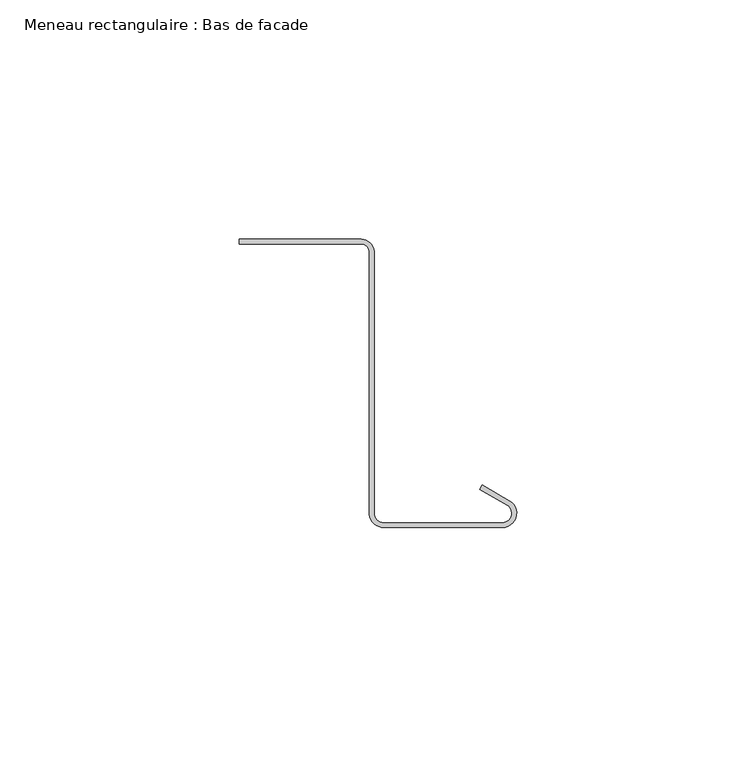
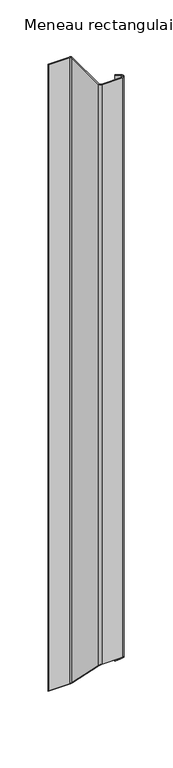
"""IFC4 building model written with IfcOpenShell, lengths in millimetres: member geometry, Meneau rectangulaire : Bas de facade."""

from ifc_helpers import new_model, si_unit, frame, origin, place, context, project, spatial, polyline, circle_curve, ellipse_curve, source, transform, mapped, element, save
from ifc_brep_helpers import plane_surface, cylinder_surface, revolved_surface, advanced_brep


def meneau_rectangulaire_bas_de_facade_2cf6ae8b(model_context):
    return source(origin(), model_context, "Body", "AdvancedBrep", [
        advanced_brep(
        [(-32.4584179, 2.9588923, 0.0), (-57.8548383, 2.9588923, 0.0), (-57.8548383, 1.9588923, 0.0), (-32.4584179, 1.9588923, 0.0), (-30.7239521, 0.4415475, 0.0), (-30.7239521, -54.522067, 0.0), (-27.735368, -57.2605998, 0.0), (-3.0, -57.2605998, 0.0), (-1.5, -51.6625235, 0.0), (-7.1638061, -48.3925235, 0.0), (-7.6638061, -49.258549, 0.0), (-2.0, -52.528549, 0.0), (-3.0, -56.2605998, 0.0), (-27.735368, -56.2605998, 0.0), (-29.7143802, -54.5495817, 0.0), (-29.7143802, 0.3898824, 0.0), (-32.4584179, 2.9588923, -795.627975), (-57.8548383, 2.9588923, -795.627975), (-57.8548383, 1.9588923, -794.627975), (-32.4584179, 1.9588923, -794.627975), (-30.7239521, 0.4415475, -793.1106302), (-30.7239521, -54.522067, -738.1470157), (-27.735368, -57.2605998, -735.408483), (-3.0, -57.2605998, -735.408483), (-1.5, -51.6625235, -741.0065592), (-7.1638061, -48.3925235, -744.2765592), (-7.6638061, -49.258549, -743.4105338), (-2.0, -52.528549, -740.1405338), (-3.0, -56.2605998, -736.408483), (-27.735368, -56.2605998, -736.408483), (-29.7143802, -54.5495817, -738.119501), (-29.7143802, 0.3898824, -793.0589651)],
        [
            (0, 1),
            (1, 2),
            (2, 3),
            (3, 4, circle_curve(frame((-32.4584179, 0.2088923, 0.0), z_axis=(0.0, 0.0, -1.0), x_axis=(0.0, 1.0, 0.0)), 1.75)),
            (4, 5),
            (5, 6, circle_curve(frame((-27.735368, -54.2605998, 0.0), z_axis=(0.0, 0.0, 1.0), x_axis=(-0.9961946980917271, -0.08715574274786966, 0.0)), 3.0)),
            (6, 7),
            (7, 8, circle_curve(frame((-3.0, -54.2605998, 0.0), z_axis=(0.0, 0.0, 1.0), x_axis=(0.0, -1.0, 0.0)), 3.0)),
            (8, 9),
            (9, 10),
            (10, 11),
            (11, 12, circle_curve(frame((-3.0, -54.2605998, 0.0), z_axis=(0.0, 0.0, -1.0), x_axis=(0.0, -1.0, 0.0)), 2.0)),
            (12, 13),
            (13, 14, circle_curve(frame((-27.735368, -54.2605998, 0.0), z_axis=(0.0, 0.0, -1.0), x_axis=(-0.9961946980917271, -0.08715574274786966, 0.0)), 2.0)),
            (14, 15),
            (15, 0, circle_curve(frame((-32.4584179, 0.2088923, 0.0), z_axis=(0.0, 0.0, 1.0), x_axis=(0.0, 1.0, 0.0)), 2.75)),
            (0, 16),
            (16, 17),
            (17, 1),
            (17, 18),
            (18, 2),
            (18, 19),
            (19, 3),
            (19, 20, ellipse_curve(frame((-32.4584179, 0.2088923, -792.877975), z_axis=(0.0, -0.707106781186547, -0.707106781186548), x_axis=(0.0, 0.707106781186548, -0.7071067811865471)), 2.4748737, 1.75)),
            (20, 4),
            (20, 21),
            (21, 5),
            (21, 22, ellipse_curve(frame((-27.735368, -54.2605998, -738.408483), z_axis=(0.0, 0.707106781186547, 0.707106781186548), x_axis=(0.0, -0.707106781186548, 0.7071067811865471)), 4.2426407, 3.0)),
            (22, 6),
            (22, 23),
            (23, 7),
            (23, 24, ellipse_curve(frame((-3.0, -54.2605998, -738.408483), z_axis=(0.0, 0.707106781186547, 0.707106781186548), x_axis=(0.0, -0.707106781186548, 0.7071067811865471)), 4.2426407, 3.0)),
            (24, 8),
            (24, 25),
            (25, 9),
            (25, 26),
            (26, 10),
            (26, 27),
            (27, 11),
            (27, 28, ellipse_curve(frame((-3.0, -54.2605998, -738.408483), z_axis=(0.0, -0.707106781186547, -0.707106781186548), x_axis=(0.0, 0.707106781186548, -0.7071067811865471)), 2.8284271, 2.0)),
            (28, 12),
            (28, 29),
            (29, 13),
            (29, 30, ellipse_curve(frame((-27.735368, -54.2605998, -738.408483), z_axis=(0.0, -0.707106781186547, -0.707106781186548), x_axis=(0.0, 0.707106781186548, -0.7071067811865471)), 2.8284271, 2.0)),
            (30, 14),
            (30, 31),
            (31, 15),
            (31, 16, ellipse_curve(frame((-32.4584179, 0.2088923, -792.877975), z_axis=(0.0, 0.707106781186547, 0.707106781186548), x_axis=(0.0, -0.707106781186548, 0.7071067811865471)), 3.8890873, 2.75)),
        ],
        [
            plane_surface(frame((0.0, -63.8351035, 0.0), z_axis=(0.0, 0.0, 1.0), x_axis=(-1.0, 0.0, 0.0))),
            plane_surface(frame((-32.4584179, 2.9588923, 0.0), z_axis=(0.0, 1.0, 0.0), x_axis=(0.0, 0.0, -1.0))),
            plane_surface(frame((-57.8548383, 2.9588923, 0.0), z_axis=(-1.0, 0.0, 0.0), x_axis=(0.0, 0.0, -1.0))),
            plane_surface(frame((-57.8548383, 1.9588923, 0.0), z_axis=(0.0, -1.0, 0.0), x_axis=(0.0, 0.0, -1.0))),
            revolved_surface(polyline([(-32.4584179, 1.9588923, -794.627975), (-32.4584179, 1.9588923, 0.0)]), (-32.4584179, 0.2088923, 0.0), (0.0, 0.0, -1.0)),
            plane_surface(frame((-30.7239521, 0.4415475, 0.0), z_axis=(-1.0, 0.0, 0.0), x_axis=(0.0, 0.0, -1.0))),
            cylinder_surface(frame((-27.735368, -54.2605998, 0.0), z_axis=(0.0, 0.0, 1.0000000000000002), x_axis=(-0.9961946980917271, -0.08715574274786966, 0.0)), 3.0),
            plane_surface(frame((-27.735368, -57.2605998, 0.0), z_axis=(0.0, -1.0, 0.0), x_axis=(0.0, 0.0, -1.0))),
            cylinder_surface(frame((-3.0, -54.2605998, 0.0), z_axis=(0.0, 0.0, 1.0), x_axis=(0.0, -1.0, 0.0)), 3.0),
            plane_surface(frame((-1.5, -51.6625235, 0.0), z_axis=(0.5000000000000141, 0.8660254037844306, 0.0), x_axis=(0.0, 0.0, -1.0))),
            plane_surface(frame((-7.1638061, -48.3925235, 0.0), z_axis=(-0.8660254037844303, 0.5000000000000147, 0.0), x_axis=(0.0, 0.0, -1.0))),
            plane_surface(frame((-7.6638061, -49.258549, 0.0), z_axis=(-0.500000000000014, -0.8660254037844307, 0.0), x_axis=(0.0, 0.0, -1.0))),
            revolved_surface(polyline([(-3.0, -56.2605998, -740.4084829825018), (-3.0, -56.2605998, 0.0)]), (-3.0, -54.2605998, 0.0), (0.0, 0.0, -1.0)),
            plane_surface(frame((-3.0, -56.2605998, 0.0), z_axis=(0.0, 1.0, 0.0), x_axis=(0.0, 0.0, -1.0))),
            revolved_surface(polyline([(-29.727757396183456, -54.434911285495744, -740.408482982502), (-29.727757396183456, -54.434911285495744, 0.0)]), (-27.735368, -54.2605998, 0.0), (0.0, 0.0, -1.0000000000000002)),
            plane_surface(frame((-29.7143802, -54.5495817, 0.0), z_axis=(1.0, 0.0, 0.0), x_axis=(0.0, 0.0, -1.0))),
            cylinder_surface(frame((-32.4584179, 0.2088923, 0.0), z_axis=(0.0, 0.0, 1.0), x_axis=(0.0, 1.0, 0.0)), 2.75),
            plane_surface(frame((304.8, 0.0, -792.6690827), z_axis=(0.0, -0.707106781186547, -0.707106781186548), x_axis=(0.0, -0.707106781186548, 0.707106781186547))),
        ],
        [
            (0, [[1, 2, 3, 4, 5, 6, 7, 8, 9, 10, 11, 12, 13, 14, 15, 16]]),
            (1, [[-1, 17, 18, 19]]),
            (2, [[-2, -19, 20, 21]]),
            (3, [[-3, -21, 22, 23]]),
            (4, [[-4, -23, 24, 25]]),
            (5, [[-5, -25, 26, 27]]),
            (6, [[-6, -27, 28, 29]]),
            (7, [[-7, -29, 30, 31]]),
            (8, [[-8, -31, 32, 33]]),
            (9, [[-9, -33, 34, 35]]),
            (10, [[-10, -35, 36, 37]]),
            (11, [[-11, -37, 38, 39]]),
            (12, [[-12, -39, 40, 41]]),
            (13, [[-13, -41, 42, 43]]),
            (14, [[-14, -43, 44, 45]]),
            (15, [[-15, -45, 46, 47]]),
            (16, [[-16, -47, 48, -17]]),
            (17, [[-48, -46, -44, -42, -40, -38, -36, -34, -32, -30, -28, -26, -24, -22, -20, -18]]),
        ],
    ),
    ])


if __name__ == "__main__":
    model = new_model("IFC4")
    model_context = context("Model", 3, world=origin())
    ifc_project = project(units=[si_unit("LENGTHUNIT", "METRE", prefix="MILLI")], contexts=[model_context])
    site = spatial("IfcSite", under=ifc_project)
    building = spatial("IfcBuilding", under=site)
    placement = place(None, origin())
    meneau_rectangulaire_bas_de_facade_shape = meneau_rectangulaire_bas_de_facade_2cf6ae8b(model_context)
    element("IfcMember", 1, ObjectType="Meneau rectangulaire : Bas de facade", at=placement, inside=building, context=model_context, shape_type="MappedRepresentation", body=[
        mapped(meneau_rectangulaire_bas_de_facade_shape, transform((0.0, 0.0, 0.0), x_axis=(1.0, 0.0, 0.0), y_axis=(0.0, 1.0, 0.0), z_axis=(0.0, 0.0, 1.0))),
    ])
    save(model, "model.ifc")
